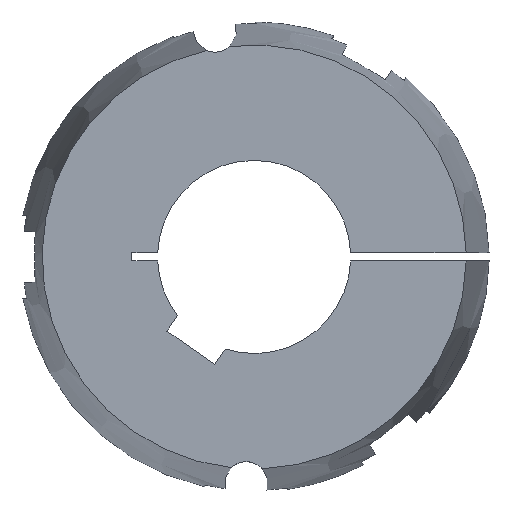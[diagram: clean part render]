
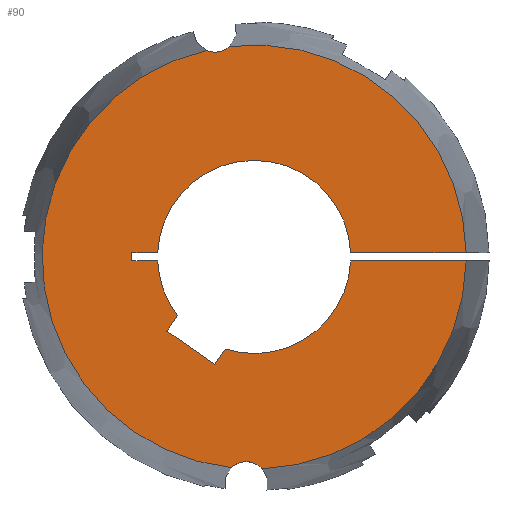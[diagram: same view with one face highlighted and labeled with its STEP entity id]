
A CAD part, left-side view. The second image highlights one B-rep face of the part: STEP entity #90.
In plain terms, the highlighted planar face has unit normal (-1, 0, 0).
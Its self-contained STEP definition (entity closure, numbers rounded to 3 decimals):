
#90 = ADVANCED_FACE( '', ( #140 ), #141, .F. );
#140 = FACE_OUTER_BOUND( '', #208, .T. );
#141 = PLANE( '', #209 );
#208 = EDGE_LOOP( '', ( #369, #370, #371, #372, #373, #374, #375, #376, #377, #378, #379, #380, #381, #382, #383, #384 ) );
#209 = AXIS2_PLACEMENT_3D( '', #385, #386, #387 );
#369 = ORIENTED_EDGE( '', *, *, #548, .F. );
#370 = ORIENTED_EDGE( '', *, *, #601, .F. );
#371 = ORIENTED_EDGE( '', *, *, #570, .T. );
#372 = ORIENTED_EDGE( '', *, *, #583, .T. );
#373 = ORIENTED_EDGE( '', *, *, #581, .T. );
#374 = ORIENTED_EDGE( '', *, *, #578, .T. );
#375 = ORIENTED_EDGE( '', *, *, #587, .T. );
#376 = ORIENTED_EDGE( '', *, *, #602, .T. );
#377 = ORIENTED_EDGE( '', *, *, #603, .T. );
#378 = ORIENTED_EDGE( '', *, *, #604, .T. );
#379 = ORIENTED_EDGE( '', *, *, #605, .T. );
#380 = ORIENTED_EDGE( '', *, *, #606, .T. );
#381 = ORIENTED_EDGE( '', *, *, #572, .T. );
#382 = ORIENTED_EDGE( '', *, *, #607, .F. );
#383 = ORIENTED_EDGE( '', *, *, #551, .F. );
#384 = ORIENTED_EDGE( '', *, *, #608, .F. );
#385 = CARTESIAN_POINT( '', ( -102., 0., 0. ) );
#386 = DIRECTION( '', ( 1., 0., 0. ) );
#387 = DIRECTION( '', ( 0., 1., 0. ) );
#548 = EDGE_CURVE( '', #649, #651, #652, .F. );
#551 = EDGE_CURVE( '', #655, #657, #658, .F. );
#570 = EDGE_CURVE( '', #693, #691, #694, .T. );
#572 = EDGE_CURVE( '', #696, #697, #698, .T. );
#578 = EDGE_CURVE( '', #709, #707, #710, .T. );
#581 = EDGE_CURVE( '', #714, #709, #715, .T. );
#583 = EDGE_CURVE( '', #691, #714, #717, .T. );
#587 = EDGE_CURVE( '', #707, #721, #723, .T. );
#601 = EDGE_CURVE( '', #693, #649, #745, .T. );
#602 = EDGE_CURVE( '', #721, #746, #747, .T. );
#603 = EDGE_CURVE( '', #746, #748, #749, .T. );
#604 = EDGE_CURVE( '', #748, #750, #751, .T. );
#605 = EDGE_CURVE( '', #750, #752, #753, .T. );
#606 = EDGE_CURVE( '', #752, #696, #754, .T. );
#607 = EDGE_CURVE( '', #657, #697, #755, .T. );
#608 = EDGE_CURVE( '', #651, #655, #756, .T. );
#649 = VERTEX_POINT( '', #815 );
#651 = VERTEX_POINT( '', #828 );
#652 = CIRCLE( '', #829, 6.75 );
#655 = VERTEX_POINT( '', #843 );
#657 = VERTEX_POINT( '', #856 );
#658 = CIRCLE( '', #857, 6.75 );
#691 = VERTEX_POINT( '', #924 );
#693 = VERTEX_POINT( '', #927 );
#694 = LINE( '', #928, #929 );
#696 = VERTEX_POINT( '', #937 );
#697 = VERTEX_POINT( '', #938 );
#698 = LINE( '', #939, #940 );
#707 = VERTEX_POINT( '', #958 );
#709 = VERTEX_POINT( '', #961 );
#710 = LINE( '', #962, #963 );
#714 = VERTEX_POINT( '', #969 );
#715 = LINE( '', #970, #971 );
#717 = CIRCLE( '', #974, 30. );
#721 = VERTEX_POINT( '', #979 );
#723 = LINE( '', #982, #983 );
#745 = CIRCLE( '', #1008, 65.867 );
#746 = VERTEX_POINT( '', #1009 );
#747 = CIRCLE( '', #1010, 30. );
#748 = VERTEX_POINT( '', #1011 );
#749 = LINE( '', #1012, #1013 );
#750 = VERTEX_POINT( '', #1014 );
#751 = LINE( '', #1015, #1016 );
#752 = VERTEX_POINT( '', #1017 );
#753 = LINE( '', #1018, #1019 );
#754 = CIRCLE( '', #1020, 30. );
#755 = CIRCLE( '', #1021, 65.867 );
#756 = CIRCLE( '', #1022, 65.867 );
#815 = CARTESIAN_POINT( '', ( -102., -2.538, -65.819 ) );
#828 = CARTESIAN_POINT( '', ( -102., 7.121, -65.481 ) );
#829 = AXIS2_PLACEMENT_3D( '', #1188, #1189, #1190 );
#843 = CARTESIAN_POINT( '', ( -102., 14.891, 64.162 ) );
#856 = CARTESIAN_POINT( '', ( -102., 7.611, 65.426 ) );
#857 = AXIS2_PLACEMENT_3D( '', #1191, #1192, #1193 );
#924 = CARTESIAN_POINT( '', ( -102., -29.974, -1.25 ) );
#927 = CARTESIAN_POINT( '', ( -102., -65.856, -1.25 ) );
#928 = CARTESIAN_POINT( '', ( -102., -73., -1.25 ) );
#929 = VECTOR( '', #1223, 1000. );
#937 = CARTESIAN_POINT( '', ( -102., -29.974, 1.25 ) );
#938 = CARTESIAN_POINT( '', ( -102., -65.856, 1.25 ) );
#939 = CARTESIAN_POINT( '', ( -102., 0., 1.25 ) );
#940 = VECTOR( '', #1224, 1000. );
#958 = CARTESIAN_POINT( '', ( -102., 27.103, -23.017 ) );
#961 = CARTESIAN_POINT( '', ( -102., 12.359, -33.341 ) );
#962 = CARTESIAN_POINT( '', ( -102., 12.359, -33.341 ) );
#963 = VECTOR( '', #1229, 1000. );
#969 = CARTESIAN_POINT( '', ( -102., 9.042, -28.605 ) );
#970 = CARTESIAN_POINT( '', ( -102., 9.042, -28.605 ) );
#971 = VECTOR( '', #1232, 1000. );
#974 = AXIS2_PLACEMENT_3D( '', #1234, #1235, #1236 );
#979 = CARTESIAN_POINT( '', ( -102., 23.787, -18.28 ) );
#982 = CARTESIAN_POINT( '', ( -102., 27.103, -23.017 ) );
#983 = VECTOR( '', #1242, 1000. );
#1008 = AXIS2_PLACEMENT_3D( '', #1276, #1277, #1278 );
#1009 = CARTESIAN_POINT( '', ( -102., 29.974, -1.25 ) );
#1010 = AXIS2_PLACEMENT_3D( '', #1279, #1280, #1281 );
#1011 = CARTESIAN_POINT( '', ( -102., 38., -1.25 ) );
#1012 = CARTESIAN_POINT( '', ( -102., 0., -1.25 ) );
#1013 = VECTOR( '', #1282, 1000. );
#1014 = CARTESIAN_POINT( '', ( -102., 38., 1.25 ) );
#1015 = CARTESIAN_POINT( '', ( -102., 38., -1.25 ) );
#1016 = VECTOR( '', #1283, 1000. );
#1017 = CARTESIAN_POINT( '', ( -102., 29.974, 1.25 ) );
#1018 = CARTESIAN_POINT( '', ( -102., 38., 1.25 ) );
#1019 = VECTOR( '', #1284, 1000. );
#1020 = AXIS2_PLACEMENT_3D( '', #1285, #1286, #1287 );
#1021 = AXIS2_PLACEMENT_3D( '', #1288, #1289, #1290 );
#1022 = AXIS2_PLACEMENT_3D( '', #1291, #1292, #1293 );
#1188 = CARTESIAN_POINT( '', ( -102., 2.456, -70.36 ) );
#1189 = DIRECTION( '', ( 1., 0., 0. ) );
#1190 = DIRECTION( '', ( 0., 1., 0. ) );
#1191 = CARTESIAN_POINT( '', ( -102., 12.218, 70.36 ) );
#1192 = DIRECTION( '', ( 1., 0., 0. ) );
#1193 = DIRECTION( '', ( 0., 1., 0. ) );
#1223 = DIRECTION( '', ( 0., 1., 0. ) );
#1224 = DIRECTION( '', ( 0., -1., 0. ) );
#1229 = DIRECTION( '', ( 0., 0.819, 0.574 ) );
#1232 = DIRECTION( '', ( 0., 0.574, -0.819 ) );
#1234 = CARTESIAN_POINT( '', ( -102., 0., 0. ) );
#1235 = DIRECTION( '', ( 1., 0., 0. ) );
#1236 = DIRECTION( '', ( 0., 0., -1. ) );
#1242 = DIRECTION( '', ( 0., -0.574, 0.819 ) );
#1276 = CARTESIAN_POINT( '', ( -102., 0., 0. ) );
#1277 = DIRECTION( '', ( 1., 0., 0. ) );
#1278 = DIRECTION( '', ( 0., 1., 0. ) );
#1279 = CARTESIAN_POINT( '', ( -102., 0., 0. ) );
#1280 = DIRECTION( '', ( 1., 0., 0. ) );
#1281 = DIRECTION( '', ( 0., 0., -1. ) );
#1282 = DIRECTION( '', ( 0., 1., 0. ) );
#1283 = DIRECTION( '', ( 0., 0., 1. ) );
#1284 = DIRECTION( '', ( 0., -1., 0. ) );
#1285 = CARTESIAN_POINT( '', ( -102., 0., 0. ) );
#1286 = DIRECTION( '', ( 1., 0., 0. ) );
#1287 = DIRECTION( '', ( 0., 0., -1. ) );
#1288 = CARTESIAN_POINT( '', ( -102., 0., 0. ) );
#1289 = DIRECTION( '', ( 1., 0., 0. ) );
#1290 = DIRECTION( '', ( 0., 1., 0. ) );
#1291 = CARTESIAN_POINT( '', ( -102., 0., 0. ) );
#1292 = DIRECTION( '', ( 1., 0., 0. ) );
#1293 = DIRECTION( '', ( 0., 1., 0. ) );
